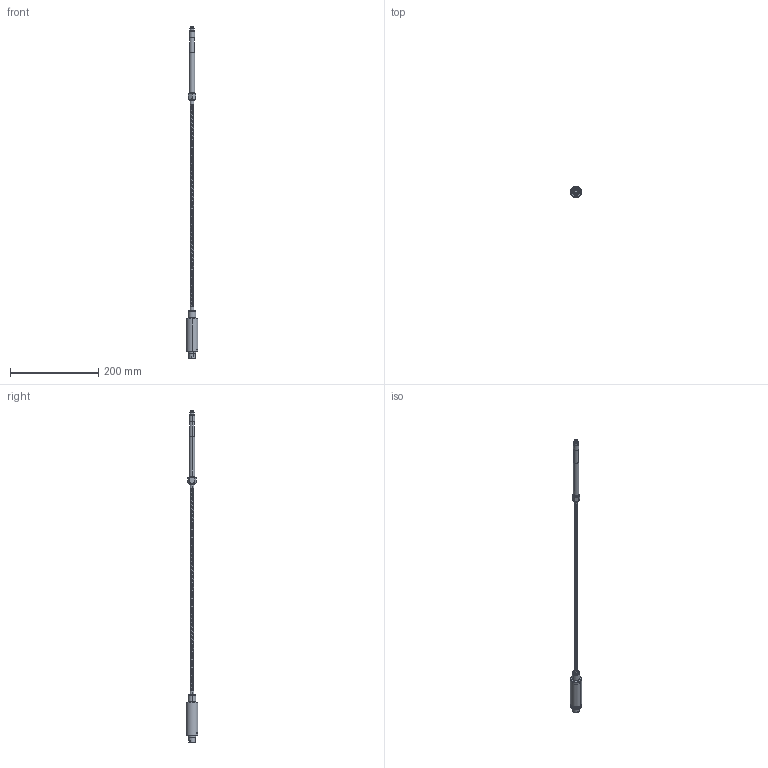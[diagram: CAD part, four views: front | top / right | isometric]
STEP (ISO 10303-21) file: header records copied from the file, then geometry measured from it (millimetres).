
FILE_DESCRIPTION (( 'STEP AP203' ), '1' );
FILE_NAME ('M31.STEP', '2010-07-29T10:22:44', ( 'User' ), ( 'Gefran S.p.a.' ), 'SwSTEP 2.0', 'SolidWorks 2010', '' );
FILE_SCHEMA (( 'CONFIG_CONTROL_DESIGN' ));
Length unit declared in the file: millimetre
Products named in the file (9): NIP200x; NIP202x; M31; CUS360x_Crimpata; MEM902x; STE801x_Revisione 1; FLX007x; CON301x; TAP101x
Assembly tree (8 placements, depth 2):
  M31
    NIP202x
    MEM902x
    STE801x_Revisione 1
    CON301x
    CUS360x_Crimpata
    FLX007x
    TAP101x
    NIP200x
Bounding box: 26.5 x 26.5 x 750.97 mm (x, y, z)
Volume: 47104.6 mm3; surface area: 47172.4 mm2
Topology: 8 solids, 8 shells, 621 faces, 1547 edges, 998 vertices
Faces by surface type: cylinder 280, plane 188, cone 60, bspline 59, torus 34
Entity records: 34495 total; most frequent: CARTESIAN_POINT 19876, ORIENTED_EDGE 3094, DIRECTION 2553, EDGE_CURVE 1547, VERTEX_POINT 998, AXIS2_PLACEMENT_3D 915, LINE 723, VECTOR 723
